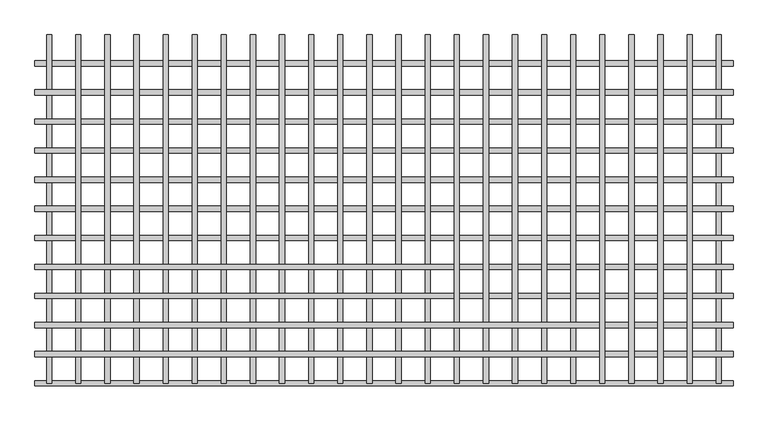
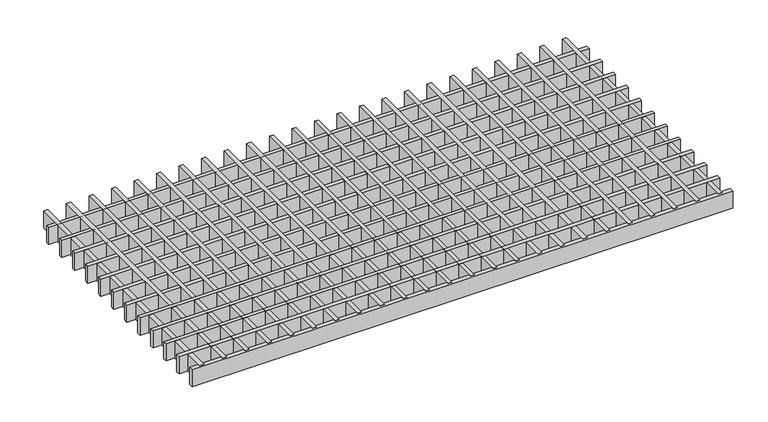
"""IFC4 building model written with IfcOpenShell, lengths in millimetres: proxy geometry, durlum_GEO_panel : durlum_GEO_9."""

from ifc_helpers import new_model, si_unit, origin, origin_with_axes, place, context, project, spatial, polyline, outline, extrude, source, transform, mapped, element, save


def generic_models_7b14c66c(model_context):
    return source(origin(), model_context, "Body", "SweptSolid", [
        extrude(outline(polyline([(520.5, 299.5), (529.5, 299.5), (529.5, -299.5), (520.5, -299.5), (520.5, 299.5)])), origin_with_axes(), (0.0, 0.0, 1.0), 40.0),
        extrude(outline(polyline([(470.5, 299.5), (479.5, 299.5), (479.5, -299.5), (470.5, -299.5), (470.5, 299.5)])), origin_with_axes(), (0.0, 0.0, 1.0), 40.0),
        extrude(outline(polyline([(420.5, 299.5), (429.5, 299.5), (429.5, -299.5), (420.5, -299.5), (420.5, 299.5)])), origin_with_axes(), (0.0, 0.0, 1.0), 40.0),
        extrude(outline(polyline([(370.5, 299.5), (379.5, 299.5), (379.5, -299.5), (370.5, -299.5), (370.5, 299.5)])), origin_with_axes(), (0.0, 0.0, 1.0), 40.0),
        extrude(outline(polyline([(599.5, -245.0), (599.5, -254.0), (-599.5, -254.0), (-599.5, -245.0), (599.5, -245.0)])), origin_with_axes(), (0.0, 0.0, 1.0), 40.0),
        extrude(outline(polyline([(599.5, -195.0), (599.5, -204.0), (-599.5, -204.0), (-599.5, -195.0), (599.5, -195.0)])), origin_with_axes(), (0.0, 0.0, 1.0), 40.0),
        extrude(outline(polyline([(320.5, 299.5), (329.5, 299.5), (329.5, -299.5), (320.5, -299.5), (320.5, 299.5)])), origin_with_axes(), (0.0, 0.0, 1.0), 40.0),
        extrude(outline(polyline([(270.5, 299.5), (279.5, 299.5), (279.5, -299.5), (270.5, -299.5), (270.5, 299.5)])), origin_with_axes(), (0.0, 0.0, 1.0), 40.0),
        extrude(outline(polyline([(220.5, 299.5), (229.5, 299.5), (229.5, -299.5), (220.5, -299.5), (220.5, 299.5)])), origin_with_axes(), (0.0, 0.0, 1.0), 40.0),
        extrude(outline(polyline([(170.5, 299.5), (179.5, 299.5), (179.5, -299.5), (170.5, -299.5), (170.5, 299.5)])), origin_with_axes(), (0.0, 0.0, 1.0), 40.0),
        extrude(outline(polyline([(120.5, 299.5), (129.5, 299.5), (129.5, -299.5), (120.5, -299.5), (120.5, 299.5)])), origin_with_axes(), (0.0, 0.0, 1.0), 40.0),
        extrude(outline(polyline([(599.5, -145.0), (599.5, -154.0), (-599.5, -154.0), (-599.5, -145.0), (599.5, -145.0)])), origin_with_axes(), (0.0, 0.0, 1.0), 40.0),
        extrude(outline(polyline([(599.5, -95.0), (599.5, -104.0), (-599.5, -104.0), (-599.5, -95.0), (599.5, -95.0)])), origin_with_axes(), (0.0, 0.0, 1.0), 40.0),
        extrude(outline(polyline([(70.5, 299.5), (79.5, 299.5), (79.5, -299.5), (70.5, -299.5), (70.5, 299.5)])), origin_with_axes(), (0.0, 0.0, 1.0), 40.0),
        extrude(outline(polyline([(20.5, 299.5), (29.5, 299.5), (29.5, -299.5), (20.5, -299.5), (20.5, 299.5)])), origin_with_axes(), (0.0, 0.0, 1.0), 40.0),
        extrude(outline(polyline([(-29.5, 299.5), (-20.5, 299.5), (-20.5, -299.5), (-29.5, -299.5), (-29.5, 299.5)])), origin_with_axes(), (0.0, 0.0, 1.0), 40.0),
        extrude(outline(polyline([(-79.5, 299.5), (-70.5, 299.5), (-70.5, -299.5), (-79.5, -299.5), (-79.5, 299.5)])), origin_with_axes(), (0.0, 0.0, 1.0), 40.0),
        extrude(outline(polyline([(-129.5, 299.5), (-120.5, 299.5), (-120.5, -299.5), (-129.5, -299.5), (-129.5, 299.5)])), origin_with_axes(), (0.0, 0.0, 1.0), 40.0),
        extrude(outline(polyline([(-179.5, 299.5), (-170.5, 299.5), (-170.5, -299.5), (-179.5, -299.5), (-179.5, 299.5)])), origin_with_axes(), (0.0, 0.0, 1.0), 40.0),
        extrude(outline(polyline([(-229.5, 299.5), (-220.5, 299.5), (-220.5, -299.5), (-229.5, -299.5), (-229.5, 299.5)])), origin_with_axes(), (0.0, 0.0, 1.0), 40.0),
        extrude(outline(polyline([(-279.5, 299.5), (-270.5, 299.5), (-270.5, -299.5), (-279.5, -299.5), (-279.5, 299.5)])), origin_with_axes(), (0.0, 0.0, 1.0), 40.0),
        extrude(outline(polyline([(-329.5, 299.5), (-320.5, 299.5), (-320.5, -299.5), (-329.5, -299.5), (-329.5, 299.5)])), origin_with_axes(), (0.0, 0.0, 1.0), 40.0),
        extrude(outline(polyline([(-379.5, 299.5), (-370.5, 299.5), (-370.5, -299.5), (-379.5, -299.5), (-379.5, 299.5)])), origin_with_axes(), (0.0, 0.0, 1.0), 40.0),
        extrude(outline(polyline([(-429.5, 299.5), (-420.5, 299.5), (-420.5, -299.5), (-429.5, -299.5), (-429.5, 299.5)])), origin_with_axes(), (0.0, 0.0, 1.0), 40.0),
        extrude(outline(polyline([(-479.5, 299.5), (-470.5, 299.5), (-470.5, -299.5), (-479.5, -299.5), (-479.5, 299.5)])), origin_with_axes(), (0.0, 0.0, 1.0), 40.0),
        extrude(outline(polyline([(-529.5, 299.5), (-520.5, 299.5), (-520.5, -299.5), (-529.5, -299.5), (-529.5, 299.5)])), origin_with_axes(), (0.0, 0.0, 1.0), 40.0),
        extrude(outline(polyline([(599.5, -45.0), (599.5, -54.0), (-599.5, -54.0), (-599.5, -45.0), (599.5, -45.0)])), origin_with_axes(), (0.0, 0.0, 1.0), 40.0),
        extrude(outline(polyline([(599.5, 5.0), (599.5, -4.0), (-599.5, -4.0), (-599.5, 5.0), (599.5, 5.0)])), origin_with_axes(), (0.0, 0.0, 1.0), 40.0),
        extrude(outline(polyline([(599.5, 55.0), (599.5, 46.0), (-599.5, 46.0), (-599.5, 55.0), (599.5, 55.0)])), origin_with_axes(), (0.0, 0.0, 1.0), 40.0),
        extrude(outline(polyline([(599.5, 105.0), (599.5, 96.0), (-599.5, 96.0), (-599.5, 105.0), (599.5, 105.0)])), origin_with_axes(), (0.0, 0.0, 1.0), 40.0),
        extrude(outline(polyline([(599.5, 155.0), (599.5, 146.0), (-599.5, 146.0), (-599.5, 155.0), (599.5, 155.0)])), origin_with_axes(), (0.0, 0.0, 1.0), 40.0),
        extrude(outline(polyline([(599.5, 205.0), (599.5, 196.0), (-599.5, 196.0), (-599.5, 205.0), (599.5, 205.0)])), origin_with_axes(), (0.0, 0.0, 1.0), 40.0),
        extrude(outline(polyline([(570.5, 299.5), (579.5, 299.5), (579.5, -299.5), (570.5, -299.5), (570.5, 299.5)])), origin_with_axes(), (0.0, 0.0, 1.0), 40.0),
        extrude(outline(polyline([(-579.5, 299.5), (-570.5, 299.5), (-570.5, -299.5), (-579.5, -299.5), (-579.5, 299.5)])), origin_with_axes(), (0.0, 0.0, 1.0), 40.0),
        extrude(outline(polyline([(599.5, -295.0), (599.5, -304.0), (-599.5, -304.0), (-599.5, -295.0), (599.5, -295.0)])), origin_with_axes(), (0.0, 0.0, 1.0), 40.0),
        extrude(outline(polyline([(599.5, 255.0), (599.5, 246.0), (-599.5, 246.0), (-599.5, 255.0), (599.5, 255.0)])), origin_with_axes(), (0.0, 0.0, 1.0), 40.0),
    ])


if __name__ == "__main__":
    model = new_model("IFC4")
    model_context = context("Model", 3, world=origin())
    ifc_project = project(units=[si_unit("LENGTHUNIT", "METRE", prefix="MILLI")], contexts=[model_context])
    site = spatial("IfcSite", under=ifc_project)
    building = spatial("IfcBuilding", under=site)
    placement = place(None, origin())
    generic_models_shape = generic_models_7b14c66c(model_context)
    element("IfcBuildingElementProxy", 1, Name="durlum_GEO_panel : durlum_GEO_9", ObjectType="durlum_GEO_panel : durlum_GEO_9", at=placement, inside=building, context=model_context, shape_type="MappedRepresentation", body=[
        mapped(generic_models_shape, transform((0.0, 0.0, 0.0), x_axis=(1.0, 0.0, 0.0), y_axis=(0.0, 1.0, 0.0), z_axis=(0.0, 0.0, 1.0))),
    ])
    save(model, "model.ifc")
